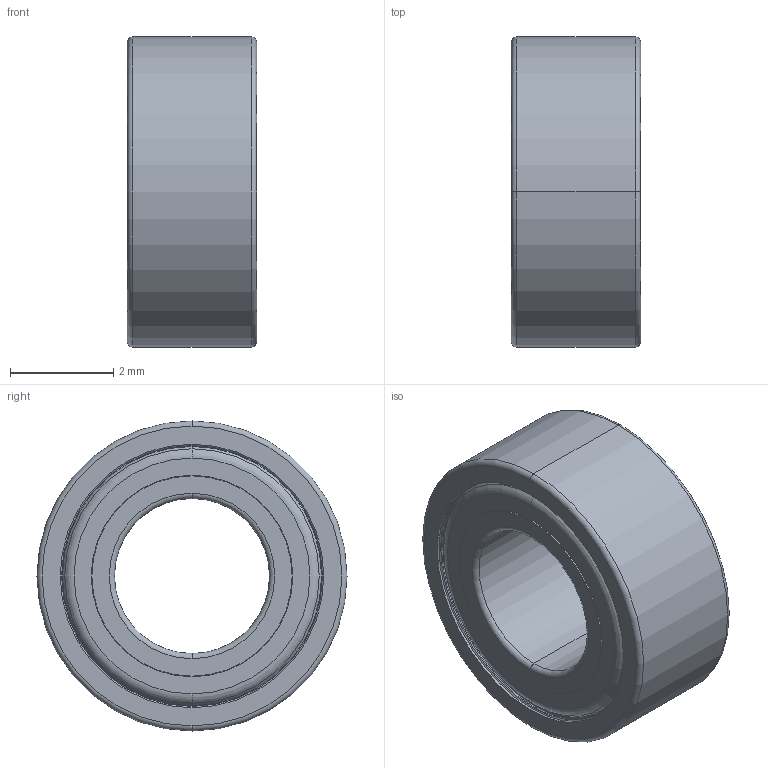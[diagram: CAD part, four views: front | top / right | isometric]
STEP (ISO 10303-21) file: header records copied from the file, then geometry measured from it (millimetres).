
FILE_DESCRIPTION((''),'2;1');
FILE_NAME('MR63ZZ-EA006','2025-12-19T16:47:03',('qinghui.yi'),(''),'CREO PARAMETRIC BY PTC INC, 2019164','CREO PARAMETRIC BY PTC INC, 2019164','');
FILE_SCHEMA(('CONFIG_CONTROL_DESIGN','SHAPE_APPEARANCE_LAYERS_GROUPS'));
Length unit declared in the file: millimetre
Products named in the file (1): MR63ZZ-EA006
Bounding box: 2.5 x 6 x 6 mm (x, y, z)
Volume: 33.4 mm3; surface area: 207.3 mm2
Topology: 2 solids, 2 shells, 88 faces, 180 edges, 106 vertices
Faces by surface type: torus 34, cylinder 24, cone 16, plane 14
Entity records: 2595 total; most frequent: DIRECTION 496, CARTESIAN_POINT 374, ORIENTED_EDGE 360, AXIS2_PLACEMENT_3D 228, COLOUR_RGB 196, EDGE_CURVE 180, CIRCLE 140, VERTEX_POINT 106
